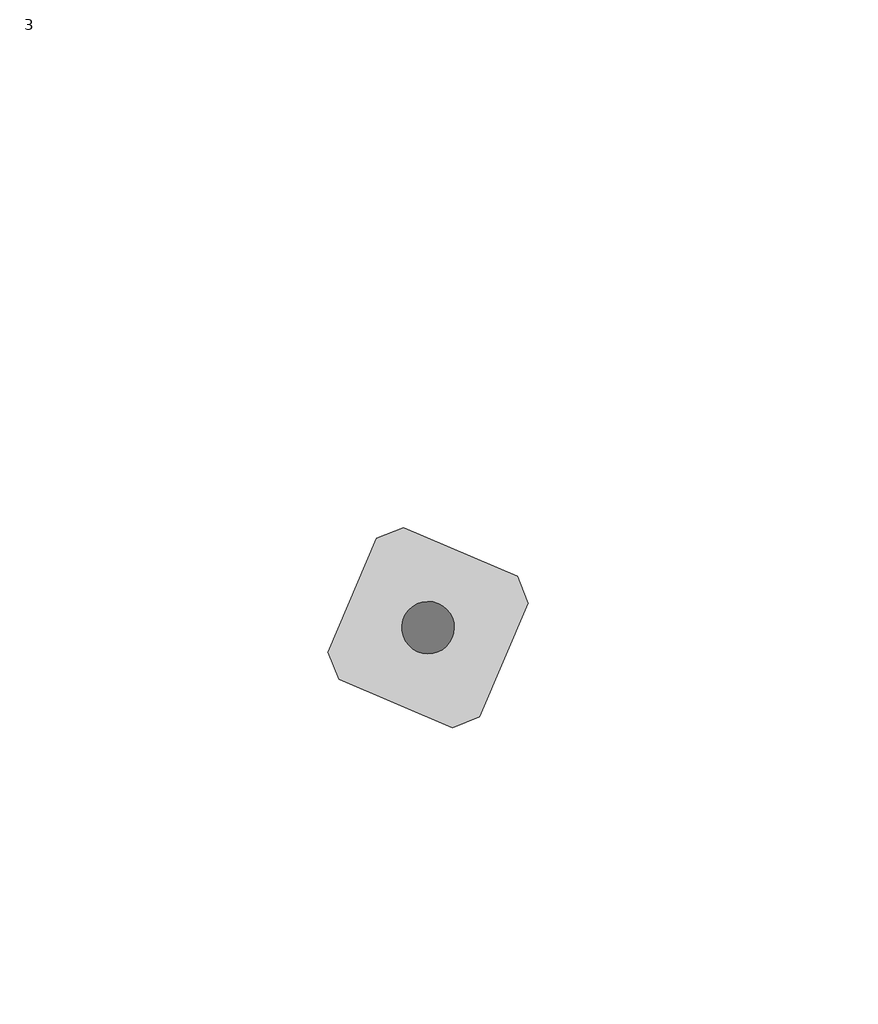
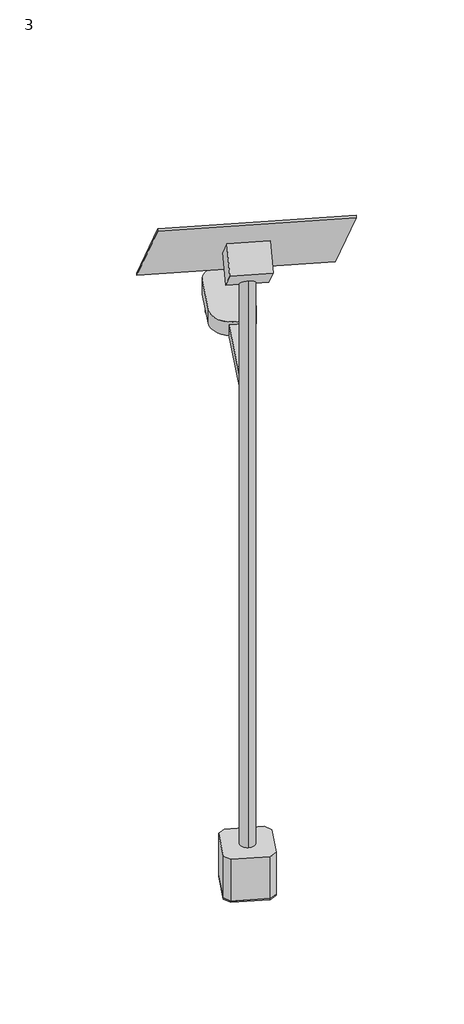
# One storey: 1 light fixture.
"""IFC4 building model written with IfcOpenShell, lengths in millimetres."""

from ifc_helpers import new_model, si_unit, origin, place, context, project, spatial, transform, mapped, element, save
from components import poste_de_luz_poste_de_luz_eb11a457

model = new_model("IFC4")

# Units and contexts
model_context = context("Model", 3, world=origin())
ifc_project = project(units=[si_unit("LENGTHUNIT", "METRE", prefix="MILLI")], contexts=[model_context])

# Site, building, storey
site = spatial("IfcSite", under=ifc_project)
building = spatial("IfcBuilding", under=site)
storey = spatial("IfcBuildingStorey", under=building, Name="3", Elevation=6000.0)

# Light fixture
placement = place(None, origin())
poste_de_luz_poste_de_luz_shape = poste_de_luz_poste_de_luz_eb11a457(model_context)
element("IfcLightFixture", 1, ObjectType="Poste de Luz : Poste de Luz", at=placement, inside=storey, context=model_context, shape_type="MappedRepresentation", body=[
    mapped(poste_de_luz_poste_de_luz_shape, transform((-42449.4253107, -580564.4262538, 6400.0), x_axis=(-0.39325918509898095, -0.9194276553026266, 0.0), y_axis=(0.9194276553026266, -0.39325918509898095, 0.0), z_axis=(0.0, 0.0, 1.0))),
])

save(model, "model.ifc")
